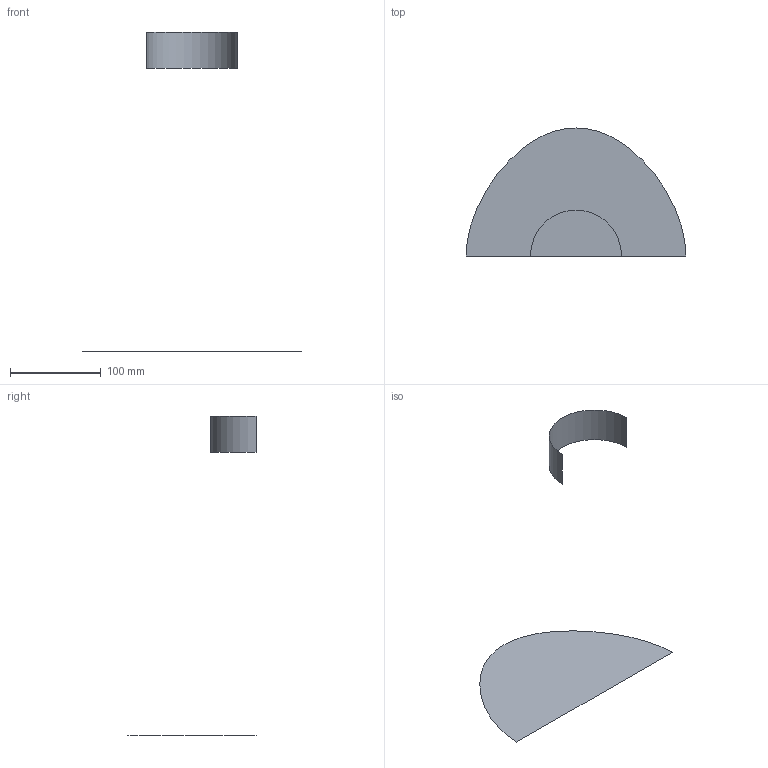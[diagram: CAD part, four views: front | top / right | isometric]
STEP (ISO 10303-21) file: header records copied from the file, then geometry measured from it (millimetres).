
FILE_DESCRIPTION(('CATIA V5 STEP Exchange'),'2;1');
FILE_NAME('C:\_Andres\UNIVERSIDAD\IQS\ASIGNATURAS\DAO\Controles\1617\c1\1original\Sanz_Alvarez_Ej00-base_v31.stp','2017-02-06T16:27:55+00:00',('none'),('none'),'CATIA Version 5-6 Release 2014 SP1 HF18','CATIA V5 STEP AP203','none');
FILE_SCHEMA(('CONFIG_CONTROL_DESIGN'));
Length unit declared in the file: millimetre
Products named in the file (1): Sanz_Alvarez_Ej00-base_v31
Bounding box: 242 x 141 x 352 mm (x, y, z)
Surface area: 31963.1 mm2 (no closed solid volume)
Topology: 0 solids, 2 shells, 2 faces, 16 edges, 26 vertices
Faces by surface type: cylinder 1, plane 1
Entity records: 230 total; most frequent: CARTESIAN_POINT 78, DIRECTION 16, COMPOSITE_CURVE_SEGMENT 9, TRIMMED_CURVE 9, AXIS2_PLACEMENT_3D 8, COMPOSITE_CURVE 7, ORIENTED_EDGE 7, EDGE_CURVE 7
